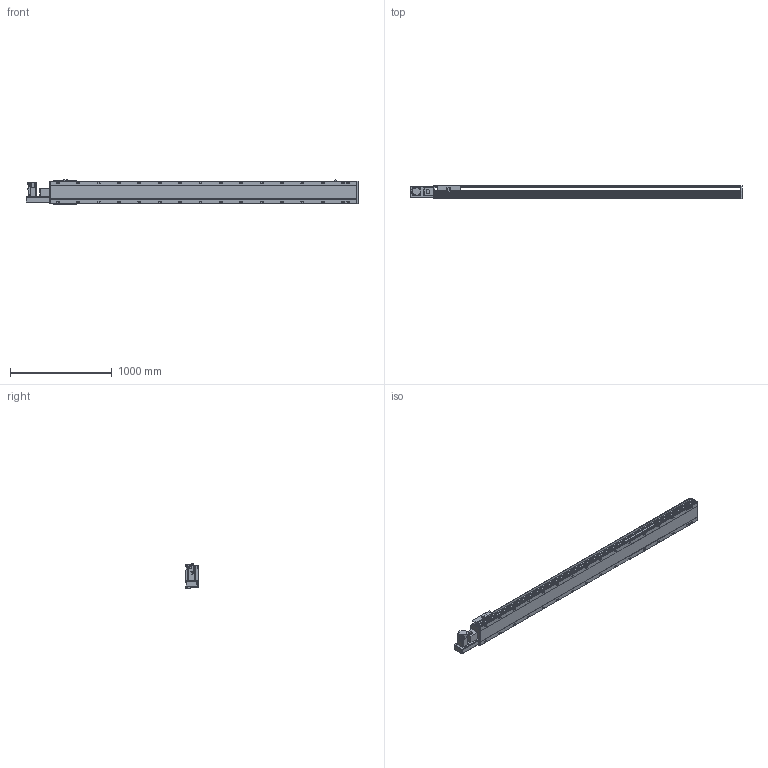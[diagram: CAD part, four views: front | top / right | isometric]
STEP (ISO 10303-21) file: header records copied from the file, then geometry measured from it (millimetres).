
FILE_DESCRIPTION(/* description */ ('STEP AP214'),/* implementation_level */ '2;1');
FILE_NAME(/* name */ 'PBS220-P40-S2650-L-T75-C1-N(0)',/* time_stamp */ '2022-06-11T09:57:53+02:00',/* author */ ('License CC BY-ND 4.0'),/* organization */ ('CADENAS'),/* preprocessor_version */ 'ST-DEVELOPER v18.102',/* originating_system */ 'PARTsolutions',/* authorisation */ ' ');
FILE_SCHEMA (('AUTOMOTIVE_DESIGN {1 0 10303 214 3 1 1}'));
Length unit declared in the file: millimetre
Products named in the file (7): PBS220-P40-S2650-L-T75-C1-N(0); PBS220_sensor; PBS220_plant; PBS220_sliser; T75-p1; PBS220T-L_motors; PBS220-S2650()_body
Assembly tree (8 placements, depth 2):
  PBS220-P40-S2650-L-T75-C1-N(0)
    PBS220_sensor  x3
    PBS220_plant
    PBS220_sliser
    T75-p1
    PBS220T-L_motors
    PBS220-S2650()_body
Bounding box: 3256 x 134 x 238.5 mm (x, y, z)
Volume: 43672659.5 mm3; surface area: 3993191.7 mm2
Topology: 8 solids, 8 shells, 1010 faces, 2620 edges, 1702 vertices
Faces by surface type: plane 630, cylinder 324, cone 56
Full cylindrical faces by diameter (mm): 2.013 x4, 4.5 x14, 4.917 x4, 6 x7, 6.647 x8, 8 x10, 8.376 x32, 8.5 x32, 10 x6, 14 x32, 38 x2, 40 x1, 70 x1
Entity records: 28125 total; most frequent: CARTESIAN_POINT 5020, DIRECTION 4887, ORIENTED_EDGE 4394, EDGE_CURVE 2197, AXIS2_PLACEMENT_3D 1763, VERTEX_POINT 1544, LINE 1361, VECTOR 1361
